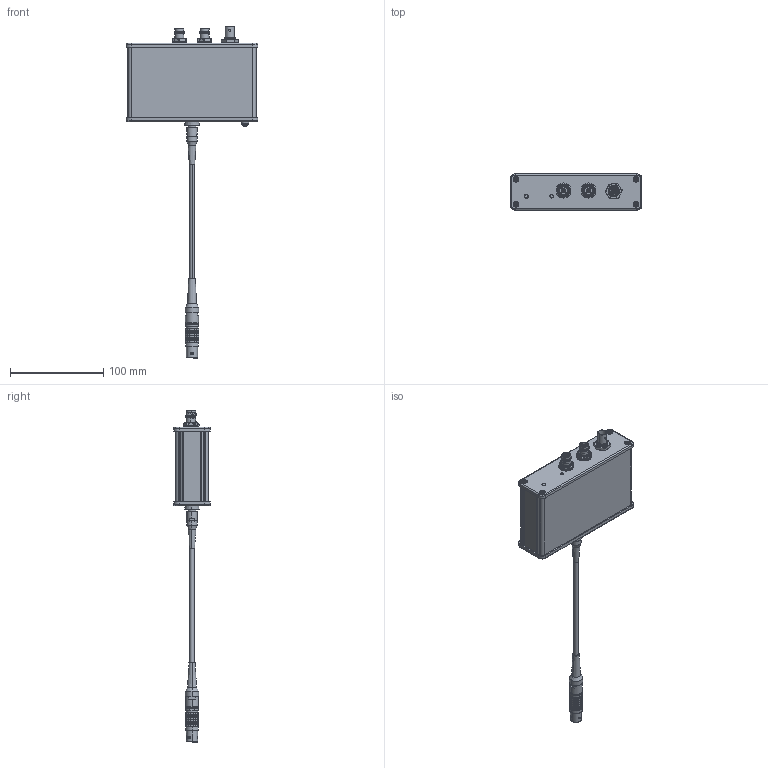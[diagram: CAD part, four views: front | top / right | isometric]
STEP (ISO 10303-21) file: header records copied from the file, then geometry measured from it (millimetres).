
FILE_DESCRIPTION (( 'STEP AP214' ), '1' );
FILE_NAME ('M81 SSM MODULEDELETE.STEP', '2023-05-31T13:44:30', ( '' ), ( '' ), 'SwSTEP 2.0', 'SolidWorks 2020', '' );
FILE_SCHEMA (( 'AUTOMOTIVE_DESIGN' ));
Length unit declared in the file: inch
Products named in the file (1): M81 SSM MODULEDELETE
Bounding box: 141.88 x 39.01 x 356.97 mm (x, y, z)
Surface area: 109896.6 mm2 (no closed solid volume)
Topology: 0 solids, 286 shells, 2658 faces, 8197 edges, 5786 vertices
Faces by surface type: plane 931, cylinder 640, bspline 539, cone 427, torus 115, sphere 6
Entity records: 156131 total; most frequent: CARTESIAN_POINT 54342, ORIENTED_EDGE 14009, DIRECTION 12033, EDGE_CURVE 8179, VERTEX_POINT 5786, AXIS2_PLACEMENT_3D 4190, VECTOR 3653, LINE 3653
